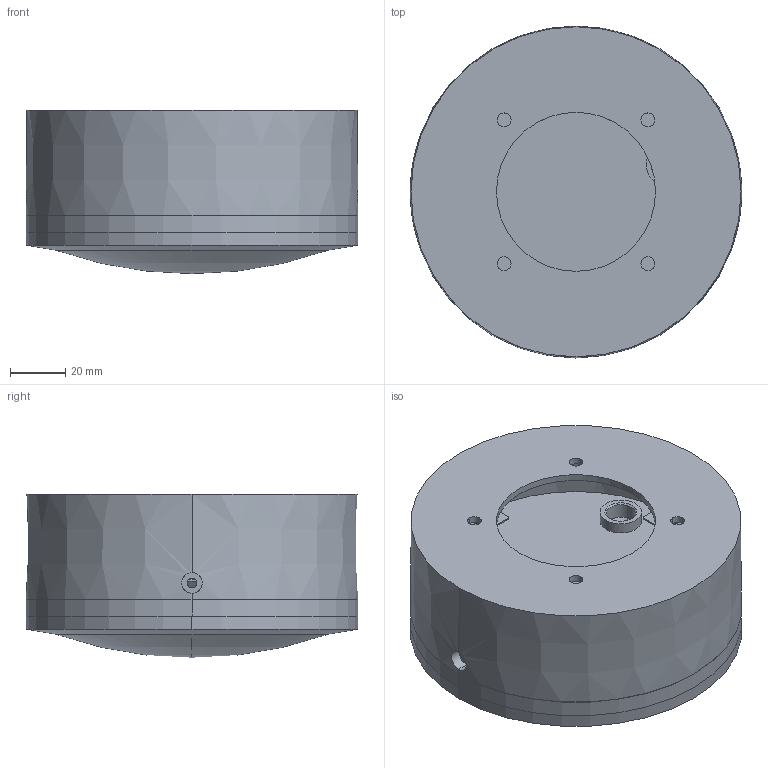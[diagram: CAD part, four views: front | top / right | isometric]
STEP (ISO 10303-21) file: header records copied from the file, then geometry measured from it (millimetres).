
FILE_DESCRIPTION((''),'2;1');
FILE_NAME('120_ASM','2020-09-23T',('Administrator'),(''),'PRO/ENGINEER BY PARAMETRIC TECHNOLOGY CORPORATION, 2014000','PRO/ENGINEER BY PARAMETRIC TECHNOLOGY CORPORATION, 2014000','');
FILE_SCHEMA(('CONFIG_CONTROL_DESIGN'));
Length unit declared in the file: millimetre
Products named in the file (8): W4-2_12_15_1; W4-3_2_3_1; KAHUANG_1_3_1; PRT0004_2_1; W1-1_3_5_1; W1-120_ASM_3_ASM_ASM_1_ASM; 120_ASM_11_ASM_ASM_1_ASM; 120_ASM
Assembly tree (10 placements, depth 4):
  120_ASM
    120_ASM_11_ASM_ASM_1_ASM
      W4-2_12_15_1
      W4-3_2_3_1
      KAHUANG_1_3_1  x4
      W1-120_ASM_3_ASM_ASM_1_ASM
        PRT0004_2_1
        W1-1_3_5_1
Bounding box: 120 x 120 x 59.02 mm (x, y, z)
Volume: 204828.7 mm3; surface area: 119661.4 mm2
Topology: 8 solids, 8 shells, 385 faces, 1053 edges, 719 vertices
Faces by surface type: cylinder 176, plane 148, cone 38, torus 18, sphere 5
Entity records: 9698 total; most frequent: CARTESIAN_POINT 2061, DIRECTION 1704, ORIENTED_EDGE 1498, EDGE_CURVE 749, AXIS2_PLACEMENT_3D 718, VERTEX_POINT 515, CIRCLE 408, EDGE_LOOP 350
